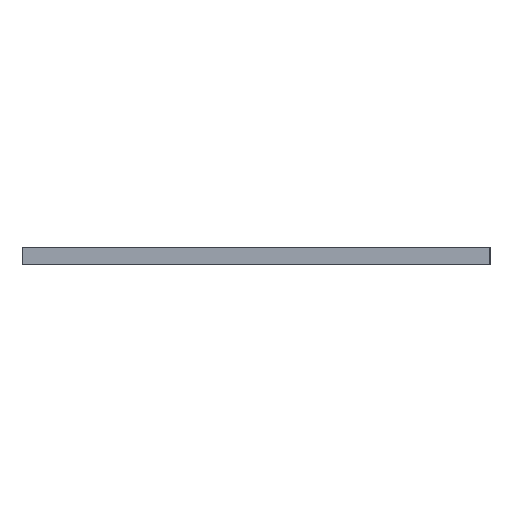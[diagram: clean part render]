
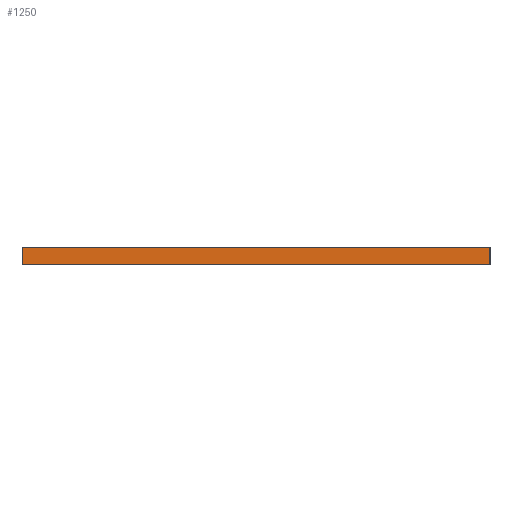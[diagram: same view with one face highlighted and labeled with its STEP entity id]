
A CAD part, left-side view. The second image highlights one B-rep face of the part: STEP entity #1250.
In plain terms, the highlighted planar face has unit normal (-1, 0, 0).
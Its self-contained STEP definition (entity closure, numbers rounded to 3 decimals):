
#102 = AXIS2_PLACEMENT_3D ( 'NONE', #842, #702, #580 ) ;
#164 = DIRECTION ( 'NONE',  ( 0., 0., -1. ) ) ;
#180 = CARTESIAN_POINT ( 'NONE',  ( -35., 20., 1.5 ) ) ;
#191 = PLANE ( 'NONE',  #102 ) ;
#202 = CARTESIAN_POINT ( 'NONE',  ( -35., 20., 0. ) ) ;
#208 = VECTOR ( 'NONE', #352, 1000. ) ;
#219 = LINE ( 'NONE', #202, #208 ) ;
#228 = EDGE_CURVE ( 'NONE', #1319, #1236, #358, .T. ) ;
#262 = VECTOR ( 'NONE', #1134, 1000. ) ;
#269 = CARTESIAN_POINT ( 'NONE',  ( -35., -20., 1.5 ) ) ;
#286 = VECTOR ( 'NONE', #1217, 1000. ) ;
#312 = EDGE_CURVE ( 'NONE', #1493, #584, #219, .T. ) ;
#352 = DIRECTION ( 'NONE',  ( 0., -1., 0. ) ) ;
#358 = LINE ( 'NONE', #1105, #286 ) ;
#366 = VECTOR ( 'NONE', #164, 1000. ) ;
#421 = ORIENTED_EDGE ( 'NONE', *, *, #1046, .T. ) ;
#580 = DIRECTION ( 'NONE',  ( 0., 0., -1. ) ) ;
#584 = VERTEX_POINT ( 'NONE', #804 ) ;
#682 = ORIENTED_EDGE ( 'NONE', *, *, #228, .F. ) ;
#693 = LINE ( 'NONE', #180, #366 ) ;
#702 = DIRECTION ( 'NONE',  ( 1., 0., 0. ) ) ;
#717 = ORIENTED_EDGE ( 'NONE', *, *, #312, .T. ) ;
#755 = CARTESIAN_POINT ( 'NONE',  ( -35., -20., 1.5 ) ) ;
#768 = EDGE_LOOP ( 'NONE', ( #717, #832, #682, #421 ) ) ;
#804 = CARTESIAN_POINT ( 'NONE',  ( -35., -20., 0. ) ) ;
#832 = ORIENTED_EDGE ( 'NONE', *, *, #1320, .F. ) ;
#842 = CARTESIAN_POINT ( 'NONE',  ( -35., 20., 1.5 ) ) ;
#905 = CARTESIAN_POINT ( 'NONE',  ( -35., 20., 1.5 ) ) ;
#1013 = CARTESIAN_POINT ( 'NONE',  ( -35., 20., 0. ) ) ;
#1046 = EDGE_CURVE ( 'NONE', #1319, #1493, #693, .T. ) ;
#1105 = CARTESIAN_POINT ( 'NONE',  ( -35., 20., 1.5 ) ) ;
#1134 = DIRECTION ( 'NONE',  ( 0., 0., -1. ) ) ;
#1217 = DIRECTION ( 'NONE',  ( 0., -1., 0. ) ) ;
#1236 = VERTEX_POINT ( 'NONE', #755 ) ;
#1250 = ADVANCED_FACE ( 'NONE', ( #1340 ), #191, .F. ) ;
#1319 = VERTEX_POINT ( 'NONE', #905 ) ;
#1320 = EDGE_CURVE ( 'NONE', #1236, #584, #1397, .T. ) ;
#1340 = FACE_OUTER_BOUND ( 'NONE', #768, .T. ) ;
#1397 = LINE ( 'NONE', #269, #262 ) ;
#1493 = VERTEX_POINT ( 'NONE', #1013 ) ;
